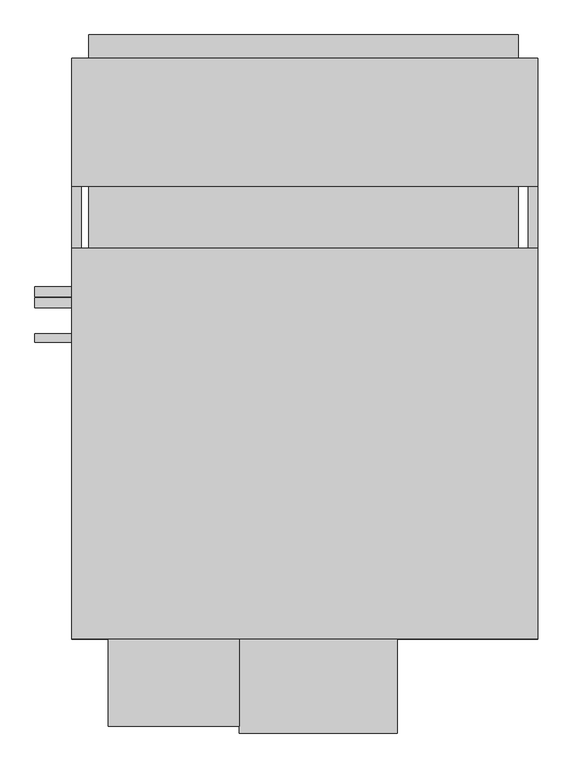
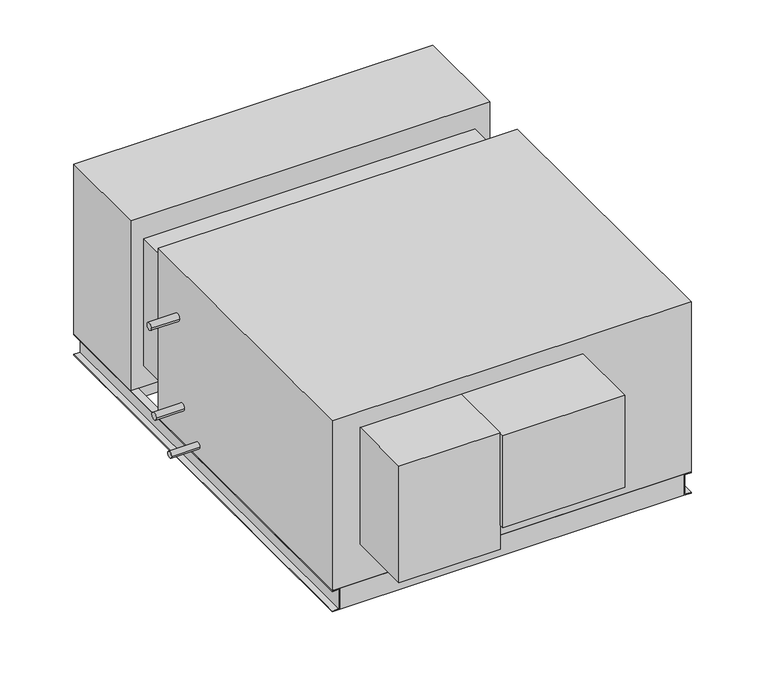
"""IFC4 building model written with IfcOpenShell, lengths in millimetres: proxy geometry, Horizontal_Direct_Drive_Blower_Coil_Unit_-_42DHA_-_CARRIER_-_2-Pipe_Cool-EHeat_NFilterR_W-MixingBox_LH_2022 : Size 20 - 460v/60Hz/3Ph - 8 Row 19.9kW LH."""

import ifcopenshell
import ifcopenshell.guid

model = None  # the IFC model being written
_history = None  # IfcOwnerHistory: only IFC2X3 demands one
_inside = {}  # id of a spatial element -> (the spatial element, [elements in it])
_under = {}  # id of a project, library or spatial element -> (it, [spatial elements below it])
_declared = {}  # id of a project -> (the project, [libraries it declares])
_typed = {}  # id of a type object -> (the type object, [elements of that type])
_made_of = {}  # id of a material, layer set ... -> (it, [elements and type objects made of it])


def new_model(schema):
    """Start an empty IFC model of exactly this schema.

    Asked for "IFC4X3", IfcOpenShell would pick the latest addendum, in which some entities
    have other attributes; the version numbers below select the first issue.
    IFC2X3 requires an IfcOwnerHistory on every rooted entity: one is made here for all.
    """
    global model, _history
    if schema == "IFC4X3":
        model = ifcopenshell.file(schema_version=(4, 3, 0, 0))
    else:
        model = ifcopenshell.file(schema=schema)
    _inside.clear()
    _under.clear()
    _declared.clear()
    _typed.clear()
    _made_of.clear()
    _history = None
    if model.schema == "IFC2X3":
        org = make("IfcOrganization", Name="unknown")
        user = make(
            "IfcPersonAndOrganization",
            ThePerson=make("IfcPerson", FamilyName="unknown"),
            TheOrganization=org,
        )
        app = make(
            "IfcApplication",
            ApplicationDeveloper=org,
            Version="unknown",
            ApplicationFullName="unknown",
            ApplicationIdentifier="unknown",
        )
        _history = make(
            "IfcOwnerHistory",
            OwningUser=user,
            OwningApplication=app,
            ChangeAction="ADDED",
            CreationDate=0,
        )
    return model


def make(cls, **values):
    """One entity of the class cls with the attributes given. An attribute that is None is left unset."""
    return model.create_entity(
        cls, **{name: value for name, value in values.items() if value is not None}
    )


def rooted(cls, **values):
    """An entity with a GlobalId (a new one), such as an element, a storey or a relation."""
    return make(cls, GlobalId=ifcopenshell.guid.new(), OwnerHistory=_history, **values)


def si_unit(unit_type, name, prefix=None):
    """IfcSIUnit, for example si_unit("LENGTHUNIT", "METRE", prefix="MILLI")."""
    return make("IfcSIUnit", UnitType=unit_type, Prefix=prefix, Name=name)


def assignment(units):
    """IfcUnitAssignment: the units of a project."""
    return None if units is None else make("IfcUnitAssignment", Units=units)


def point(xyz):
    """IfcCartesianPoint."""
    return None if xyz is None else make("IfcCartesianPoint", Coordinates=xyz)


def direction(xyz):
    """IfcDirection."""
    return None if xyz is None else make("IfcDirection", DirectionRatios=xyz)


def frame(location, z_axis=None, x_axis=None):
    """IfcAxis2Placement3D, a coordinate frame: its origin and axes. An axis left out is left unset."""
    return make(
        "IfcAxis2Placement3D",
        Location=point(location),
        Axis=direction(z_axis),
        RefDirection=direction(x_axis),
    )


def frame_2d(location, x_axis=None):
    """IfcAxis2Placement2D, a coordinate frame in the plane: its origin and x axis."""
    return make(
        "IfcAxis2Placement2D", Location=point(location), RefDirection=direction(x_axis)
    )


def origin():
    """The frame at (0, 0, 0) with its axes left unset."""
    return frame((0.0, 0.0, 0.0))


def place(relative_to, where):
    """IfcLocalPlacement: puts the frame where relative to a parent placement (None: the world)."""
    return make(
        "IfcLocalPlacement", PlacementRelTo=relative_to, RelativePlacement=where
    )


def context(
    kind, dimensions, precision=None, world=None, true_north=None, identifier=None
):
    """IfcGeometricRepresentationContext, for example the 3D "Model" context."""
    return make(
        "IfcGeometricRepresentationContext",
        ContextIdentifier=identifier,
        ContextType=kind,
        CoordinateSpaceDimension=dimensions,
        Precision=precision,
        WorldCoordinateSystem=world,
        TrueNorth=true_north,
    )


def project(units=None, contexts=None):
    """IfcProject with its units and contexts."""
    return rooted(
        "IfcProject",
        Name="project",
        RepresentationContexts=contexts,
        UnitsInContext=assignment(units),
    )


def spatial(cls, under=None, at=None, **own):
    """A site, building, storey or space (cls), placed at a placement, below another one or the project."""
    s = rooted(cls, ObjectPlacement=at, **own)
    if under is not None:
        _under.setdefault(under.id(), (under, []))[1].append(s)
    return s


def polyline(points):
    """IfcPolyline through the points."""
    return make("IfcPolyline", Points=[point(p) for p in points])


def circle_curve(where, radius):
    """IfcCircle in the frame where."""
    return make("IfcCircle", Position=where, Radius=radius)


def trimmed(basis, trim1, trim2, sense, master):
    """IfcTrimmedCurve: the piece of a basis curve between two trims."""
    return make(
        "IfcTrimmedCurve",
        BasisCurve=basis,
        Trim1=trim1,
        Trim2=trim2,
        SenseAgreement=sense,
        MasterRepresentation=master,
    )


def segment(curve, same_sense, transition):
    """IfcCompositeCurveSegment."""
    return make(
        "IfcCompositeCurveSegment",
        Transition=transition,
        SameSense=same_sense,
        ParentCurve=curve,
    )


def composite_curve(segments, self_intersect=None):
    """IfcCompositeCurve: segments joined end to end."""
    return make("IfcCompositeCurve", Segments=segments, SelfIntersect=self_intersect)


def outline(outer, holes=None, kind="AREA"):
    """IfcArbitraryClosedProfileDef: a profile drawn as a closed curve; with holes, ...WithVoids."""
    if holes is None:
        return make("IfcArbitraryClosedProfileDef", ProfileType=kind, OuterCurve=outer)
    return make(
        "IfcArbitraryProfileDefWithVoids",
        ProfileType=kind,
        OuterCurve=outer,
        InnerCurves=holes,
    )


def extrude(swept, where, along, depth):
    """IfcExtrudedAreaSolid: the profile swept, set in the frame where, extruded along a direction by depth."""
    return make(
        "IfcExtrudedAreaSolid",
        SweptArea=swept,
        Position=where,
        ExtrudedDirection=direction(along),
        Depth=depth,
    )


def shape(context_of_items, identifier, shape_type, items):
    """IfcShapeRepresentation: the items that make up one representation, for example the "Body"."""
    return make(
        "IfcShapeRepresentation",
        ContextOfItems=context_of_items,
        RepresentationIdentifier=identifier,
        RepresentationType=shape_type,
        Items=items,
    )


def source(mapping_origin, context_of_items, identifier, shape_type, items):
    """IfcRepresentationMap: a shape defined once, which mapped items show again and again."""
    return make(
        "IfcRepresentationMap",
        MappingOrigin=mapping_origin,
        MappedRepresentation=shape(context_of_items, identifier, shape_type, items),
    )


def transform(
    local_origin,
    x_axis=None,
    y_axis=None,
    z_axis=None,
    scale=None,
    scale2=None,
    scale3=None,
    uniform=True,
):
    """IfcCartesianTransformationOperator3D, or its non-uniform kind. x_axis, y_axis, z_axis: its Axis1, 2, 3."""
    if uniform:
        return make(
            "IfcCartesianTransformationOperator3D",
            Axis1=direction(x_axis),
            Axis2=direction(y_axis),
            LocalOrigin=point(local_origin),
            Scale=scale,
            Axis3=direction(z_axis),
        )
    return make(
        "IfcCartesianTransformationOperator3DnonUniform",
        Axis1=direction(x_axis),
        Axis2=direction(y_axis),
        LocalOrigin=point(local_origin),
        Scale=scale,
        Axis3=direction(z_axis),
        Scale2=scale2,
        Scale3=scale3,
    )


def mapped(mapping_source, mapping_target):
    """IfcMappedItem: shows the shape of a source again, moved by a transform."""
    return make(
        "IfcMappedItem", MappingSource=mapping_source, MappingTarget=mapping_target
    )


def made_of(thing, what):
    """Note that an element or type object is made of a material, layer set ...; save() writes the relation."""
    if what is not None:
        _made_of.setdefault(what.id(), (what, []))[1].append(thing)
    return thing


def element(
    cls,
    number,
    at=None,
    inside=None,
    cuts=None,
    type_object=None,
    material=None,
    context=None,
    identifier="Body",
    shape_type=None,
    held_by="IfcProductDefinitionShape",
    body=None,
    shapes=None,
    **own,
):
    """One element of the class cls, such as IfcWall. Its Tag is "e" and its number.

    at: its placement. inside: the storey or other place that contains it. cuts: it is an
    opening in that element (IfcRelVoidsElement). A single representation is given by context,
    identifier, shape_type and body (its items); several are given by shapes. held_by: the class
    of the entity that holds the representations. save() writes the other relations.
    """
    e = rooted(cls, Tag="e%d" % number, ObjectPlacement=at, **own)
    if body is not None:
        shapes = [shape(context, identifier, shape_type, body)]
    if shapes is not None:
        e.Representation = make(held_by, Representations=shapes)
    if inside is not None:
        _inside.setdefault(inside.id(), (inside, []))[1].append(e)
    if cuts is not None:
        rooted(
            "IfcRelVoidsElement", RelatingBuildingElement=cuts, RelatedOpeningElement=e
        )
    if type_object is not None:
        _typed.setdefault(type_object.id(), (type_object, []))[1].append(e)
    return made_of(e, material)


def aggregate(whole, parts):
    """IfcRelAggregates: a whole, such as a stair, and the parts it consists of."""
    return rooted("IfcRelAggregates", RelatingObject=whole, RelatedObjects=parts)


def save(model, path):
    """Write the relations noted so far, then the file.

    IfcRelAggregates (storeys below a building ...), IfcRelContainedInSpatialStructure (elements
    in a storey), IfcRelDefinesByType, IfcRelAssociatesMaterial and IfcRelDeclares: one each for
    every whole, place, type object, material and project.
    """
    for whole, parts in _under.values():
        aggregate(whole, parts)
    for where, things in _inside.values():
        rooted(
            "IfcRelContainedInSpatialStructure",
            RelatedElements=things,
            RelatingStructure=where,
        )
    for kind, things in _typed.values():
        rooted("IfcRelDefinesByType", RelatedObjects=things, RelatingType=kind)
    for what, things in _made_of.values():
        rooted("IfcRelAssociatesMaterial", RelatedObjects=things, RelatingMaterial=what)
    for by, libraries in _declared.values():
        rooted("IfcRelDeclares", RelatingContext=by, RelatedDefinitions=libraries)
    model.write(path)


def mechanical_equipment_c15f7967(model_context):
    return source(origin(), model_context, "Body", "SweptSolid", [
        extrude(outline(polyline([(101.6, 887.095), (101.6, 683.895), (-1022.35, 683.895), (-1022.35, 887.095), (101.6, 887.095)])), frame((0.0, 0.0, -670.56), z_axis=(0.0, 0.0, 1.0), x_axis=(1.0, 0.0, 0.0)), (0.0, 0.0, 1.0), 60.96),
        extrude(outline(polyline([(-1022.35, 1049.655), (101.6, 1049.655), (101.6, 988.695), (-1022.35, 988.695), (-1022.35, 1049.655)])), frame((0.0, 0.0, -279.4), z_axis=(0.0, 0.0, 1.0), x_axis=(1.0, 0.0, 0.0)), (0.0, 0.0, 1.0), 203.2),
        extrude(outline(polyline([(152.4, 988.695), (152.4, 654.05), (-1066.8, 654.05), (-1066.8, 988.695), (152.4, 988.695)])), frame((0.0, 0.0, -609.6), z_axis=(0.0, 0.0, 1.0), x_axis=(1.0, 0.0, 0.0)), (0.0, 0.0, 1.0), 609.6),
        extrude(outline(polyline([(127.0, -504.825), (127.0, -530.225), (-1041.4, -530.225), (-1041.4, -504.825), (127.0, -504.825)])), frame((0.0, 0.0, -685.8), z_axis=(0.0, 0.0, 1.0), x_axis=(1.0, 0.0, 0.0)), (0.0, 0.0, 1.0), 76.2),
        extrude(outline(polyline([(127.0, 988.695), (127.0, 963.295), (-1041.4, 963.295), (-1041.4, 988.695), (127.0, 988.695)])), frame((0.0, 0.0, -685.8), z_axis=(0.0, 0.0, 1.0), x_axis=(1.0, 0.0, 0.0)), (0.0, 0.0, 1.0), 76.2),
        extrude(outline(polyline([(-609.6, -1041.4), (-609.6, -1066.8), (-612.775, -1066.8), (-612.775, -1044.575), (-682.625, -1044.575), (-682.625, -1066.8), (-685.8, -1066.8), (-685.8, -1041.4), (-609.6, -1041.4)])), frame((0.0, -530.225, 0.0), z_axis=(0.0, 1.0, 0.0), x_axis=(0.0, 0.0, 1.0)), (0.0, 0.0, 1.0), 1518.92),
        extrude(outline(polyline([(-609.6, 127.0), (-685.8, 127.0), (-685.8, 152.4), (-682.625, 152.4), (-682.625, 130.175), (-612.775, 130.175), (-612.775, 152.4), (-609.6, 152.4), (-609.6, 127.0)])), frame((0.0, -530.225, 0.0), z_axis=(0.0, 1.0, 0.0), x_axis=(0.0, 0.0, 1.0)), (0.0, 0.0, 1.0), 1518.92),
        extrude(outline(composite_curve([segment(trimmed(circle_curve(frame_2d((377.825, -177.8)), 12.7), [point((365.125, -177.8))], [point((390.525, -177.8))], False, "CARTESIAN"), True, "CONTINUOUS"), segment(trimmed(circle_curve(frame_2d((377.825, -177.8)), 12.7), [point((390.525, -177.8))], [point((365.125, -177.8))], False, "CARTESIAN"), True, "CONTINUOUS")], self_intersect=False)), frame((-1163.1025559, 0.0, 0.0), z_axis=(1.0, 0.0, 0.0), x_axis=(0.0, 1.0, 0.0)), (0.0, 0.0, 1.0), 96.3025559),
        extrude(outline(composite_curve([segment(trimmed(circle_curve(frame_2d((348.9715397, -482.6)), 12.7), [point((336.2715397, -482.6))], [point((361.6715397, -482.6))], False, "CARTESIAN"), True, "CONTINUOUS"), segment(trimmed(circle_curve(frame_2d((348.9715397, -482.6)), 12.7), [point((361.6715397, -482.6))], [point((336.2715397, -482.6))], False, "CARTESIAN"), True, "CONTINUOUS")], self_intersect=False)), frame((-1163.1025559, 0.0, 0.0), z_axis=(1.0, 0.0, 0.0), x_axis=(0.0, 1.0, 0.0)), (0.0, 0.0, 1.0), 96.3025559),
        extrude(outline(composite_curve([segment(trimmed(circle_curve(frame_2d((257.175, -565.15)), 11.1125), [point((246.0625, -565.15))], [point((268.2875, -565.15))], False, "CARTESIAN"), True, "CONTINUOUS"), segment(trimmed(circle_curve(frame_2d((257.175, -565.15)), 11.1125), [point((268.2875, -565.15))], [point((246.0625, -565.15))], False, "CARTESIAN"), True, "CONTINUOUS")], self_intersect=False)), frame((-1163.1025559, 0.0, 0.0), z_axis=(1.0, 0.0, 0.0), x_axis=(0.0, 1.0, 0.0)), (0.0, 0.0, 1.0), 96.3025559),
        extrude(outline(polyline([(152.4, 492.125), (152.4, -530.225), (-1066.8, -530.225), (-1066.8, 492.125), (152.4, 492.125)])), frame((0.0, 0.0, -609.6), z_axis=(0.0, 0.0, 1.0), x_axis=(1.0, 0.0, 0.0)), (0.0, 0.0, 1.0), 609.6),
        extrude(outline(polyline([(-628.65, -758.825), (-971.55, -758.825), (-971.55, -530.225), (-628.65, -530.225), (-628.65, -758.825)])), frame((0.0, 0.0, -476.25), z_axis=(0.0, 0.0, 1.0), x_axis=(1.0, 0.0, 0.0)), (0.0, 0.0, 1.0), 419.1),
        extrude(outline(polyline([(-1022.35, 654.05), (101.6, 654.05), (101.6, 492.125), (-1022.35, 492.125), (-1022.35, 654.05)])), frame((0.0, 0.0, -536.575), z_axis=(0.0, 0.0, 1.0), x_axis=(1.0, 0.0, 0.0)), (0.0, 0.0, 1.0), 457.2),
        extrude(outline(polyline([(-215.9, -776.2875), (-628.65, -776.2875), (-628.65, -530.225), (-215.9, -530.225), (-215.9, -776.2875)])), frame((0.0, 0.0, -387.35), z_axis=(0.0, 0.0, 1.0), x_axis=(1.0, 0.0, 0.0)), (0.0, 0.0, 1.0), 330.2),
    ])


if __name__ == "__main__":
    model = new_model("IFC4")
    model_context = context("Model", 3, world=origin())
    ifc_project = project(units=[si_unit("LENGTHUNIT", "METRE", prefix="MILLI")], contexts=[model_context])
    site = spatial("IfcSite", under=ifc_project)
    building = spatial("IfcBuilding", under=site)
    placement = place(None, origin())
    mechanical_equipment_shape = mechanical_equipment_c15f7967(model_context)
    element("IfcBuildingElementProxy", 1, Name="Horizontal_Direct_Drive_Blower_Coil_Unit_-_42DHA_-_CARRIER_-_2-Pipe_Cool-EHeat_NFilterR_W-MixingBox_LH_2022 : Size 20 - 460v/60Hz/3Ph - 8 Row 19.9kW LH", ObjectType="Horizontal_Direct_Drive_Blower_Coil_Unit_-_42DHA_-_CARRIER_-_2-Pipe_Cool-EHeat_NFilterR_W-MixingBox_LH_2022 : Size 20 - 460v/60Hz/3Ph - 8 Row 19.9kW LH", at=placement, inside=building, context=model_context, shape_type="MappedRepresentation", body=[
        mapped(mechanical_equipment_shape, transform((0.0, 0.0, 0.0), x_axis=(1.0, 0.0, 0.0), y_axis=(0.0, 1.0, 0.0), z_axis=(0.0, 0.0, 1.0))),
    ])
    save(model, "model.ifc")
